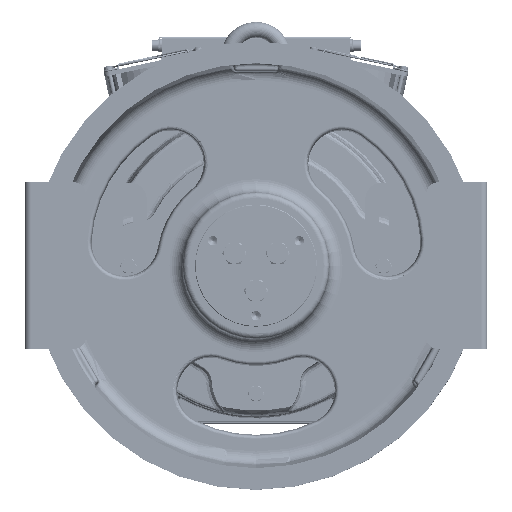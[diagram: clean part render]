
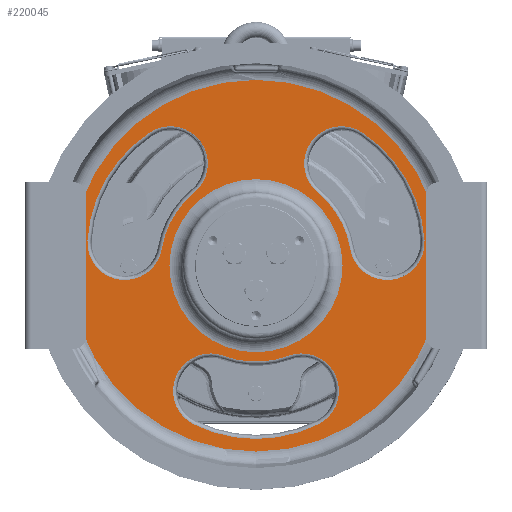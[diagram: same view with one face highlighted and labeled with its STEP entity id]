
A CAD part, top view. The second image highlights one B-rep face of the part: STEP entity #220045.
In plain terms, the highlighted planar face has unit normal (0, 0, 1) as drawn and (0, 0, -1) by its records, which use the part's own axes.
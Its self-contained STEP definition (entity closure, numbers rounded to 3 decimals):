
#215464=CARTESIAN_POINT('',(0.,0.,-10.));
#215465=DIRECTION('',(0.,0.,1.));
#215466=DIRECTION('',(0.,-1.,0.));
#215467=AXIS2_PLACEMENT_3D('',#215464,#215465,#215466);
#215469=CARTESIAN_POINT('',(0.,0.,-10.));
#215470=DIRECTION('',(0.,0.,1.));
#215471=DIRECTION('',(0.,1.,0.));
#215472=AXIS2_PLACEMENT_3D('',#215469,#215470,#215471);
#215474=CARTESIAN_POINT('',(0.,0.,-10.));
#215475=DIRECTION('',(0.,0.,-1.));
#215476=DIRECTION('',(0.,-1.,0.));
#215477=AXIS2_PLACEMENT_3D('',#215474,#215475,#215476);
#215479=CARTESIAN_POINT('',(0.,0.,-10.));
#215480=DIRECTION('',(0.,0.,-1.));
#215481=DIRECTION('',(0.,1.,0.));
#215482=AXIS2_PLACEMENT_3D('',#215479,#215480,#215481);
#215484=CARTESIAN_POINT('',(-41.042,-112.763,-10.));
#215485=DIRECTION('',(0.,0.,-1.));
#215486=DIRECTION('',(-0.444,-0.896,0.));
#215487=AXIS2_PLACEMENT_3D('',#215484,#215485,#215486);
#215489=CARTESIAN_POINT('',(0.,-2.664,-10.));
#215490=DIRECTION('',(0.,0.,1.));
#215491=DIRECTION('',(-0.349,-0.937,0.));
#215492=AXIS2_PLACEMENT_3D('',#215489,#215490,#215491);
#215494=CARTESIAN_POINT('',(41.042,-112.763,-10.));
#215495=DIRECTION('',(0.,0.,-1.));
#215496=DIRECTION('',(-0.349,0.937,0.));
#215497=AXIS2_PLACEMENT_3D('',#215494,#215495,#215496);
#215499=CARTESIAN_POINT('',(0.,-29.867,-10.));
#215500=DIRECTION('',(0.,0.,-1.));
#215501=DIRECTION('',(0.444,-0.896,0.));
#215502=AXIS2_PLACEMENT_3D('',#215499,#215500,#215501);
#215504=CARTESIAN_POINT('',(118.177,20.838,-10.));
#215505=DIRECTION('',(0.,0.,-1.));
#215506=DIRECTION('',(0.998,0.064,0.));
#215507=AXIS2_PLACEMENT_3D('',#215504,#215505,#215506);
#215509=CARTESIAN_POINT('',(2.307,1.332,-10.));
#215510=DIRECTION('',(0.,0.,1.));
#215511=DIRECTION('',(0.986,0.166,0.));
#215512=AXIS2_PLACEMENT_3D('',#215509,#215510,#215511);
#215514=CARTESIAN_POINT('',(77.135,91.925,-10.));
#215515=DIRECTION('',(0.,0.,-1.));
#215516=DIRECTION('',(-0.637,-0.771,0.));
#215517=AXIS2_PLACEMENT_3D('',#215514,#215515,#215516);
#215519=CARTESIAN_POINT('',(25.866,14.933,-10.));
#215520=DIRECTION('',(0.,0.,-1.));
#215521=DIRECTION('',(0.554,0.832,0.));
#215522=AXIS2_PLACEMENT_3D('',#215519,#215520,#215521);
#215524=CARTESIAN_POINT('',(-77.135,91.925,-10.));
#215525=DIRECTION('',(0.,0.,-1.));
#215526=DIRECTION('',(-0.554,0.832,0.));
#215527=AXIS2_PLACEMENT_3D('',#215524,#215525,#215526);
#215529=CARTESIAN_POINT('',(-2.307,1.332,-10.));
#215530=DIRECTION('',(0.,0.,1.));
#215531=DIRECTION('',(-0.637,0.771,0.));
#215532=AXIS2_PLACEMENT_3D('',#215529,#215530,#215531);
#215534=CARTESIAN_POINT('',(-118.177,20.838,-10.));
#215535=DIRECTION('',(0.,0.,-1.));
#215536=DIRECTION('',(0.986,-0.166,0.));
#215537=AXIS2_PLACEMENT_3D('',#215534,#215535,#215536);
#215539=CARTESIAN_POINT('',(-25.866,14.933,-10.));
#215540=DIRECTION('',(0.,0.,-1.));
#215541=DIRECTION('',(-0.998,0.064,0.));
#215542=AXIS2_PLACEMENT_3D('',#215539,#215540,#215541);
#219308=CARTESIAN_POINT('',(0.,-77.987,-10.));
#219309=CARTESIAN_POINT('',(0.,77.987,-10.));
#219310=VERTEX_POINT('',#219308);
#219311=VERTEX_POINT('',#219309);
#219312=CARTESIAN_POINT('',(0.,-167.491,-10.));
#219313=CARTESIAN_POINT('',(0.,167.491,-10.));
#219314=VERTEX_POINT('',#219312);
#219315=VERTEX_POINT('',#219313);
#219316=CARTESIAN_POINT('',(-56.018,-143.011,-10.));
#219317=CARTESIAN_POINT('',(-29.253,-81.137,-10.));
#219318=VERTEX_POINT('',#219316);
#219319=VERTEX_POINT('',#219317);
#219320=CARTESIAN_POINT('',(29.253,-81.137,-10.));
#219321=VERTEX_POINT('',#219320);
#219322=CARTESIAN_POINT('',(56.018,-143.011,-10.));
#219323=VERTEX_POINT('',#219322);
#219324=CARTESIAN_POINT('',(151.86,22.992,-10.));
#219325=CARTESIAN_POINT('',(84.893,15.235,-10.));
#219326=VERTEX_POINT('',#219324);
#219327=VERTEX_POINT('',#219325);
#219328=CARTESIAN_POINT('',(55.64,65.902,-10.));
#219329=VERTEX_POINT('',#219328);
#219330=CARTESIAN_POINT('',(95.842,120.019,-10.));
#219331=VERTEX_POINT('',#219330);
#219332=CARTESIAN_POINT('',(-95.842,120.019,-10.));
#219333=CARTESIAN_POINT('',(-55.64,65.902,-10.));
#219334=VERTEX_POINT('',#219332);
#219335=VERTEX_POINT('',#219333);
#219336=CARTESIAN_POINT('',(-84.893,15.235,-10.));
#219337=VERTEX_POINT('',#219336);
#219338=CARTESIAN_POINT('',(-151.86,22.992,-10.));
#219339=VERTEX_POINT('',#219338);
#219999=CARTESIAN_POINT('',(0.,0.,-10.));
#220000=DIRECTION('',(0.,0.,1.));
#220001=DIRECTION('',(0.,1.,0.));
#220002=AXIS2_PLACEMENT_3D('',#219999,#220000,#220001);
#220003=PLANE('',#220002);
#220005=ORIENTED_EDGE('',*,*,#220004,.T.);
#220007=ORIENTED_EDGE('',*,*,#220006,.T.);
#220008=EDGE_LOOP('',(#220005,#220007));
#220009=FACE_OUTER_BOUND('',#220008,.F.);
#220010=ORIENTED_EDGE('',*,*,#219988,.T.);
#220012=ORIENTED_EDGE('',*,*,#220011,.T.);
#220013=EDGE_LOOP('',(#220010,#220012));
#220014=FACE_BOUND('',#220013,.F.);
#220016=ORIENTED_EDGE('',*,*,#220015,.T.);
#220018=ORIENTED_EDGE('',*,*,#220017,.T.);
#220020=ORIENTED_EDGE('',*,*,#220019,.T.);
#220022=ORIENTED_EDGE('',*,*,#220021,.T.);
#220023=EDGE_LOOP('',(#220016,#220018,#220020,#220022));
#220024=FACE_BOUND('',#220023,.F.);
#220026=ORIENTED_EDGE('',*,*,#220025,.T.);
#220028=ORIENTED_EDGE('',*,*,#220027,.T.);
#220030=ORIENTED_EDGE('',*,*,#220029,.T.);
#220032=ORIENTED_EDGE('',*,*,#220031,.T.);
#220033=EDGE_LOOP('',(#220026,#220028,#220030,#220032));
#220034=FACE_BOUND('',#220033,.F.);
#220036=ORIENTED_EDGE('',*,*,#220035,.T.);
#220038=ORIENTED_EDGE('',*,*,#220037,.T.);
#220040=ORIENTED_EDGE('',*,*,#220039,.T.);
#220042=ORIENTED_EDGE('',*,*,#220041,.T.);
#220043=EDGE_LOOP('',(#220036,#220038,#220040,#220042));
#220044=FACE_BOUND('',#220043,.F.);
#220045=ADVANCED_FACE('',(#220009,#220014,#220024,#220034,#220044),#220003,.F.);
#215468=CIRCLE('',#215467,167.491);
#215473=CIRCLE('',#215472,167.491);
#215478=CIRCLE('',#215477,77.987);
#215483=CIRCLE('',#215482,77.987);
#215488=CIRCLE('',#215487,33.752);
#215493=CIRCLE('',#215492,83.748);
#215498=CIRCLE('',#215497,33.752);
#215503=CIRCLE('',#215502,126.252);
#215508=CIRCLE('',#215507,33.752);
#215513=CIRCLE('',#215512,83.748);
#215518=CIRCLE('',#215517,33.752);
#215523=CIRCLE('',#215522,126.252);
#215528=CIRCLE('',#215527,33.752);
#215533=CIRCLE('',#215532,83.748);
#215538=CIRCLE('',#215537,33.752);
#215543=CIRCLE('',#215542,126.252);
#219988=EDGE_CURVE('',#219310,#219311,#215478,.T.);
#220004=EDGE_CURVE('',#219314,#219315,#215468,.T.);
#220006=EDGE_CURVE('',#219315,#219314,#215473,.T.);
#220011=EDGE_CURVE('',#219311,#219310,#215483,.T.);
#220015=EDGE_CURVE('',#219318,#219319,#215488,.T.);
#220017=EDGE_CURVE('',#219319,#219321,#215493,.T.);
#220019=EDGE_CURVE('',#219321,#219323,#215498,.T.);
#220021=EDGE_CURVE('',#219323,#219318,#215503,.T.);
#220025=EDGE_CURVE('',#219326,#219327,#215508,.T.);
#220027=EDGE_CURVE('',#219327,#219329,#215513,.T.);
#220029=EDGE_CURVE('',#219329,#219331,#215518,.T.);
#220031=EDGE_CURVE('',#219331,#219326,#215523,.T.);
#220035=EDGE_CURVE('',#219334,#219335,#215528,.T.);
#220037=EDGE_CURVE('',#219335,#219337,#215533,.T.);
#220039=EDGE_CURVE('',#219337,#219339,#215538,.T.);
#220041=EDGE_CURVE('',#219339,#219334,#215543,.T.);
